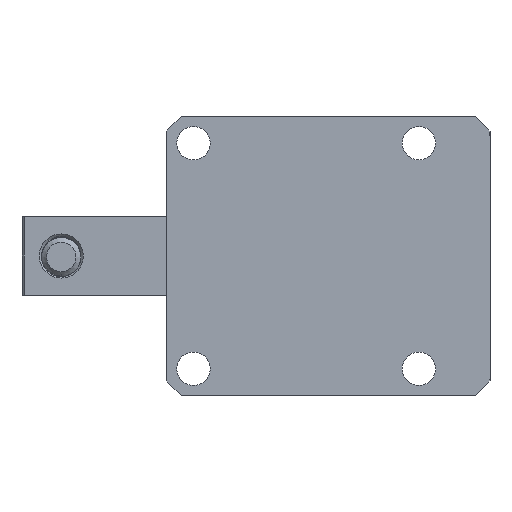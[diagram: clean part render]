
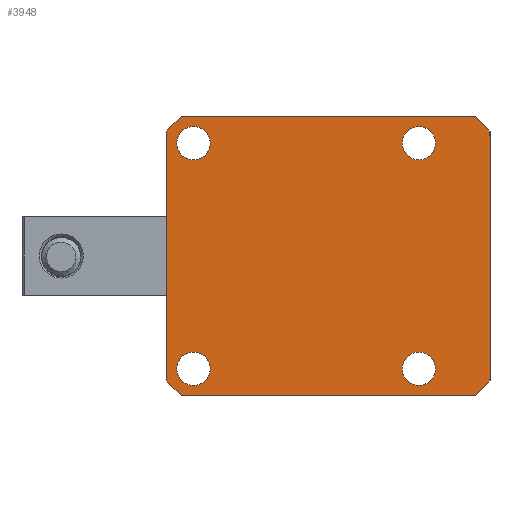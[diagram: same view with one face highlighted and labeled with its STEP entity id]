
A CAD part, front view. The second image highlights one B-rep face of the part: STEP entity #3948.
In plain terms, the highlighted planar face has unit normal (0, -1, 0).
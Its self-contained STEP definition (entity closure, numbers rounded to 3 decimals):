
#139=PLANE('',#4539);
#253=FACE_BOUND('',#646,.T.);
#254=FACE_BOUND('',#647,.T.);
#255=FACE_BOUND('',#648,.T.);
#256=FACE_BOUND('',#649,.T.);
#409=FACE_OUTER_BOUND('',#645,.T.);
#645=EDGE_LOOP('',(#2825,#2826,#2827,#2828,#2829,#2830,#2831,#2832));
#646=EDGE_LOOP('',(#2833));
#647=EDGE_LOOP('',(#2834));
#648=EDGE_LOOP('',(#2835));
#649=EDGE_LOOP('',(#2836));
#939=LINE('',#6438,#1255);
#952=LINE('',#6465,#1268);
#954=LINE('',#6470,#1270);
#955=LINE('',#6472,#1271);
#956=LINE('',#6473,#1272);
#957=LINE('',#6475,#1273);
#958=LINE('',#6477,#1274);
#959=LINE('',#6478,#1275);
#1255=VECTOR('',#5081,1000.);
#1268=VECTOR('',#5102,1000.);
#1270=VECTOR('',#5106,1000.);
#1271=VECTOR('',#5107,1000.);
#1272=VECTOR('',#5108,1000.);
#1273=VECTOR('',#5109,1000.);
#1274=VECTOR('',#5110,1000.);
#1275=VECTOR('',#5111,1000.);
#1540=CIRCLE('',#4477,3.4);
#1543=CIRCLE('',#4481,3.4);
#1546=CIRCLE('',#4485,3.4);
#1549=CIRCLE('',#4489,3.4);
#1730=VERTEX_POINT('',#6147);
#1733=VERTEX_POINT('',#6155);
#1736=VERTEX_POINT('',#6163);
#1739=VERTEX_POINT('',#6171);
#1785=VERTEX_POINT('',#6435);
#1786=VERTEX_POINT('',#6437);
#1796=VERTEX_POINT('',#6464);
#1797=VERTEX_POINT('',#6468);
#1798=VERTEX_POINT('',#6469);
#1799=VERTEX_POINT('',#6471);
#1800=VERTEX_POINT('',#6474);
#1801=VERTEX_POINT('',#6476);
#2110=EDGE_CURVE('',#1730,#1730,#1540,.T.);
#2114=EDGE_CURVE('',#1733,#1733,#1543,.T.);
#2118=EDGE_CURVE('',#1736,#1736,#1546,.T.);
#2122=EDGE_CURVE('',#1739,#1739,#1549,.T.);
#2186=EDGE_CURVE('',#1785,#1786,#939,.T.);
#2200=EDGE_CURVE('',#1796,#1786,#952,.T.);
#2202=EDGE_CURVE('',#1797,#1798,#954,.T.);
#2203=EDGE_CURVE('',#1798,#1799,#955,.T.);
#2204=EDGE_CURVE('',#1799,#1796,#956,.T.);
#2205=EDGE_CURVE('',#1785,#1800,#957,.T.);
#2206=EDGE_CURVE('',#1800,#1801,#958,.T.);
#2207=EDGE_CURVE('',#1801,#1797,#959,.T.);
#2825=ORIENTED_EDGE('',*,*,#2202,.T.);
#2826=ORIENTED_EDGE('',*,*,#2203,.T.);
#2827=ORIENTED_EDGE('',*,*,#2204,.T.);
#2828=ORIENTED_EDGE('',*,*,#2200,.T.);
#2829=ORIENTED_EDGE('',*,*,#2186,.F.);
#2830=ORIENTED_EDGE('',*,*,#2205,.T.);
#2831=ORIENTED_EDGE('',*,*,#2206,.T.);
#2832=ORIENTED_EDGE('',*,*,#2207,.T.);
#2833=ORIENTED_EDGE('',*,*,#2110,.T.);
#2834=ORIENTED_EDGE('',*,*,#2114,.T.);
#2835=ORIENTED_EDGE('',*,*,#2118,.T.);
#2836=ORIENTED_EDGE('',*,*,#2122,.T.);
#3948=ADVANCED_FACE('',(#409,#253,#254,#255,#256),#139,.T.);
#4477=AXIS2_PLACEMENT_3D('',#6148,#4935,#4936);
#4481=AXIS2_PLACEMENT_3D('',#6156,#4944,#4945);
#4485=AXIS2_PLACEMENT_3D('',#6164,#4953,#4954);
#4489=AXIS2_PLACEMENT_3D('',#6172,#4962,#4963);
#4539=AXIS2_PLACEMENT_3D('',#6467,#5104,#5105);
#4935=DIRECTION('center_axis',(0.,1.,0.));
#4936=DIRECTION('ref_axis',(0.,0.,1.));
#4944=DIRECTION('center_axis',(0.,1.,0.));
#4945=DIRECTION('ref_axis',(0.,0.,1.));
#4953=DIRECTION('center_axis',(0.,1.,0.));
#4954=DIRECTION('ref_axis',(0.,0.,1.));
#4962=DIRECTION('center_axis',(0.,1.,0.));
#4963=DIRECTION('ref_axis',(0.,0.,1.));
#5081=DIRECTION('',(1.,0.,0.));
#5102=DIRECTION('',(-0.707,0.,0.707));
#5104=DIRECTION('center_axis',(0.,-1.,0.));
#5105=DIRECTION('ref_axis',(0.,0.,-1.));
#5106=DIRECTION('',(1.,0.,0.));
#5107=DIRECTION('',(0.707,0.,0.707));
#5108=DIRECTION('',(0.,0.,1.));
#5109=DIRECTION('',(-0.707,0.,-0.707));
#5110=DIRECTION('',(0.,0.,-1.));
#5111=DIRECTION('',(0.707,0.,-0.707));
#6147=CARTESIAN_POINT('',(-458.049,141.613,19.6));
#6148=CARTESIAN_POINT('Origin',(-458.049,141.613,23.));
#6155=CARTESIAN_POINT('',(-412.049,141.613,19.6));
#6156=CARTESIAN_POINT('Origin',(-412.049,141.613,23.));
#6163=CARTESIAN_POINT('',(-412.049,141.613,-26.4));
#6164=CARTESIAN_POINT('Origin',(-412.049,141.613,-23.));
#6171=CARTESIAN_POINT('',(-458.049,141.613,-26.4));
#6172=CARTESIAN_POINT('Origin',(-458.049,141.613,-23.));
#6435=CARTESIAN_POINT('',(-460.549,141.613,28.5));
#6437=CARTESIAN_POINT('',(-400.549,141.613,28.5));
#6438=CARTESIAN_POINT('',(-460.549,141.613,28.5));
#6464=CARTESIAN_POINT('',(-397.549,141.613,25.5));
#6465=CARTESIAN_POINT('',(-397.549,141.613,25.5));
#6467=CARTESIAN_POINT('Origin',(-463.549,141.613,-28.5));
#6468=CARTESIAN_POINT('',(-460.549,141.613,-28.5));
#6469=CARTESIAN_POINT('',(-400.549,141.613,-28.5));
#6470=CARTESIAN_POINT('',(-463.549,141.613,-28.5));
#6471=CARTESIAN_POINT('',(-397.549,141.613,-25.5));
#6472=CARTESIAN_POINT('',(-400.549,141.613,-28.5));
#6473=CARTESIAN_POINT('',(-397.549,141.613,-28.5));
#6474=CARTESIAN_POINT('',(-463.549,141.613,25.5));
#6475=CARTESIAN_POINT('',(-460.549,141.613,28.5));
#6476=CARTESIAN_POINT('',(-463.549,141.613,-25.5));
#6477=CARTESIAN_POINT('',(-463.549,141.613,-28.5));
#6478=CARTESIAN_POINT('',(-463.549,141.613,-25.5));
